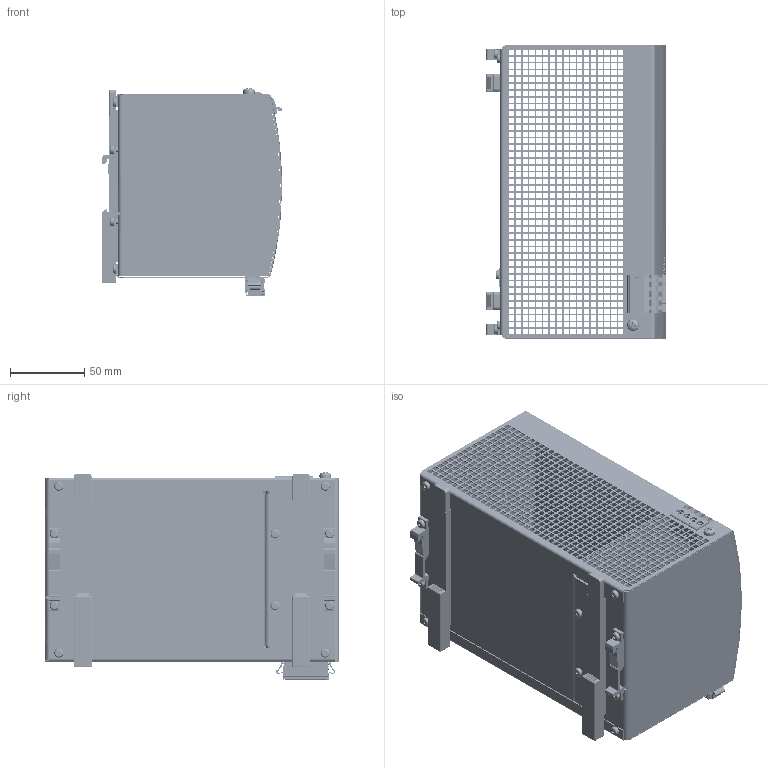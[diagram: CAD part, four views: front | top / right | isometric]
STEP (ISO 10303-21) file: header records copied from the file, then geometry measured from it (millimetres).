
FILE_DESCRIPTION((''),'2;1');
FILE_NAME('C:\Users\rahns\Desktop\406\Internetdaten\md3_uc10_242.stp','2013-11-05T11:18:47',('rahns'),(''),'Autodesk Inventor 2009','Autodesk Inventor 2009','');
FILE_SCHEMA(('AUTOMOTIVE_DESIGN { 1 0 10303 214 1 1 1 1 }'));
Length unit declared in the file: millimetre
Products named in the file (16): 406; HOUSING BODY 406; HOUSING COVER 406; FRONTFOIL 406; LED YE; LED RD; LED GN; TERMINAL 4P R6,35; TERMINAL 8P PLUG; TERMINAL 8P CONNECTOR; SCREW 3x6; SLIDER; T HOLDER; SCREW 4x8; WASHER 4
Assembly tree (26 placements, depth 2):
  406
    HOUSING BODY 406
    HOUSING BODY 406
    HOUSING COVER 406
    FRONTFOIL 406
    LED YE
    LED RD
    LED GN
    TERMINAL 4P R6,35
    TERMINAL 8P PLUG
    TERMINAL 8P CONNECTOR
    SCREW 3x6  x10
    SLIDER  x2
    T HOLDER  x2
    SCREW 4x8
    WASHER 4
Bounding box: 121.75 x 198 x 140.26 mm (x, y, z)
Volume: 180329.5 mm3; surface area: 321401.1 mm2
Topology: 175 solids, 175 shells, 11416 faces, 32241 edges, 21347 vertices
Faces by surface type: plane 9134, bspline 1295, cylinder 621, torus 238, cone 93, sphere 35
Full cylindrical faces by diameter (mm): 0.2 x2, 0.99 x8, 1 x8, 1.05 x40, 1.1 x8, 1.25 x34, 1.5 x8, 3 x10, 3.1 x4, 3.2 x2, 3.5 x3, 3.621 x1, 4 x1, 4.3 x1, 4.5 x3, 4.6 x3, 5 x4, 6 x10
Entity records: 384989 total; most frequent: CARTESIAN_POINT 95258, ORIENTED_EDGE 62238, DIRECTION 51699, EDGE_CURVE 31119, VECTOR 25829, LINE 25829, VERTEX_POINT 20783, EDGE_LOOP 14684
